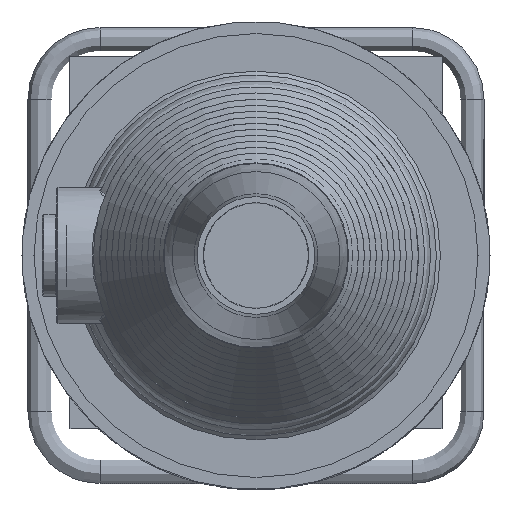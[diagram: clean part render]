
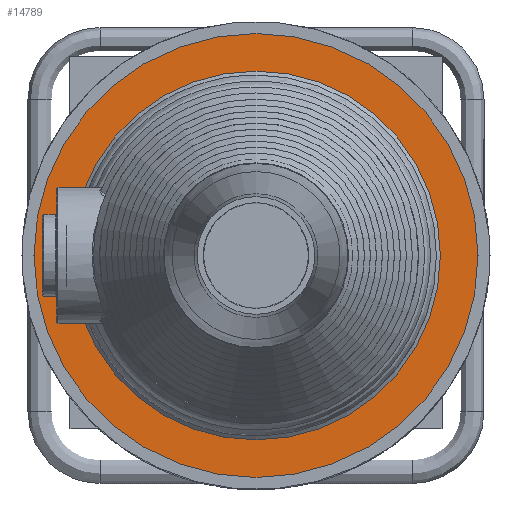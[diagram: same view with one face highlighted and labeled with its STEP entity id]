
A CAD part, left-side view. The second image highlights one B-rep face of the part: STEP entity #14789.
In plain terms, the highlighted conical face has half-angle 90 degrees and reference radius 84.659 mm.
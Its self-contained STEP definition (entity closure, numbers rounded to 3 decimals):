
#3481=FACE_BOUND('',#4639,.T.);
#3704=FACE_OUTER_BOUND('',#4638,.T.);
#4638=EDGE_LOOP('',(#10012));
#4639=EDGE_LOOP('',(#10013));
#5794=CIRCLE('',#15733,76.819);
#5795=CIRCLE('',#15734,92.5);
#6303=VERTEX_POINT('',#19678);
#6304=VERTEX_POINT('',#19680);
#7804=EDGE_CURVE('',#6303,#6303,#5794,.T.);
#7805=EDGE_CURVE('',#6304,#6304,#5795,.T.);
#10012=ORIENTED_EDGE('',*,*,#7804,.T.);
#10013=ORIENTED_EDGE('',*,*,#7805,.F.);
#14431=CONICAL_SURFACE('',#15732,84.659,90.);
#14789=ADVANCED_FACE('',(#3704,#3481),#14431,.F.);
#15732=AXIS2_PLACEMENT_3D('',#19677,#16762,#16763);
#15733=AXIS2_PLACEMENT_3D('',#19679,#16764,#16765);
#15734=AXIS2_PLACEMENT_3D('',#19681,#16766,#16767);
#16762=DIRECTION('center_axis',(-1.,0.,0.));
#16763=DIRECTION('ref_axis',(0.,-1.,0.));
#16764=DIRECTION('center_axis',(1.,0.,0.));
#16765=DIRECTION('ref_axis',(0.,0.,
-1.));
#16766=DIRECTION('center_axis',(1.,0.,0.));
#16767=DIRECTION('ref_axis',(0.,0.,
-1.));
#19677=CARTESIAN_POINT('Origin',(-191.652,0.,
0.));
#19678=CARTESIAN_POINT('',(-191.652,-76.819,0.));
#19679=CARTESIAN_POINT('Origin',(-191.652,0.,
0.));
#19680=CARTESIAN_POINT('',(-191.652,-92.5,0.));
#19681=CARTESIAN_POINT('Origin',(-191.652,0.,
0.));
